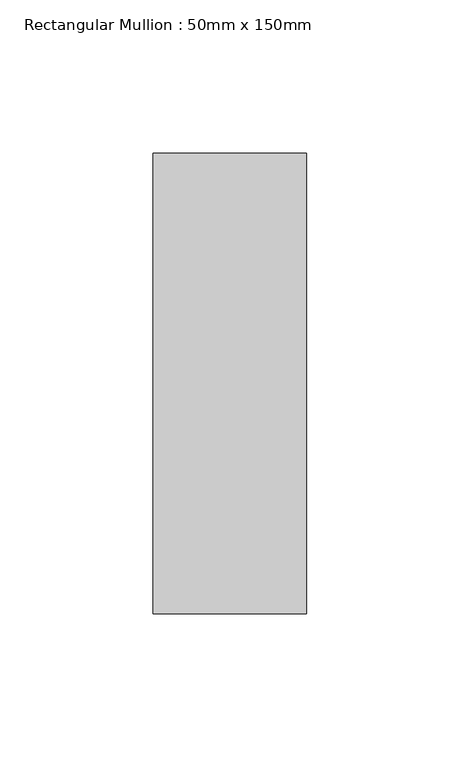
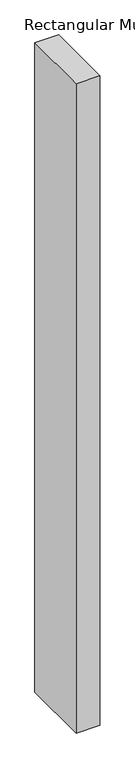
"""IFC4 building model written with IfcOpenShell, lengths in millimetres: member geometry, Rectangular Mullion : 50mm x 150mm."""

from ifc_helpers import new_model, si_unit, frame, origin, place, context, project, spatial, polyline, outline, extrude, source, transform, mapped, element, save


def rectangular_mullion_50mm_x_150mm_5f185edf(model_context):
    return source(origin(), model_context, "Body", "SweptSolid", [
        extrude(outline(polyline([(0.0, 75.0), (0.0, -75.0), (-50.0, -75.0), (-50.0, 75.0), (0.0, 75.0)])), frame((0.0, 0.0, -1442.4732202), z_axis=(0.0, 0.0, 1.0), x_axis=(1.0, 0.0, 0.0)), (0.0, 0.0, 1.0), 1442.4732202),
    ])


if __name__ == "__main__":
    model = new_model("IFC4")
    model_context = context("Model", 3, world=origin())
    ifc_project = project(units=[si_unit("LENGTHUNIT", "METRE", prefix="MILLI")], contexts=[model_context])
    site = spatial("IfcSite", under=ifc_project)
    building = spatial("IfcBuilding", under=site)
    placement = place(None, origin())
    rectangular_mullion_50mm_x_150mm_shape = rectangular_mullion_50mm_x_150mm_5f185edf(model_context)
    element("IfcMember", 1, ObjectType="Rectangular Mullion : 50mm x 150mm", at=placement, inside=building, context=model_context, shape_type="MappedRepresentation", body=[
        mapped(rectangular_mullion_50mm_x_150mm_shape, transform((0.0, 0.0, 0.0), x_axis=(1.0, 0.0, 0.0), y_axis=(0.0, 1.0, 0.0), z_axis=(0.0, 0.0, 1.0))),
    ])
    save(model, "model.ifc")
